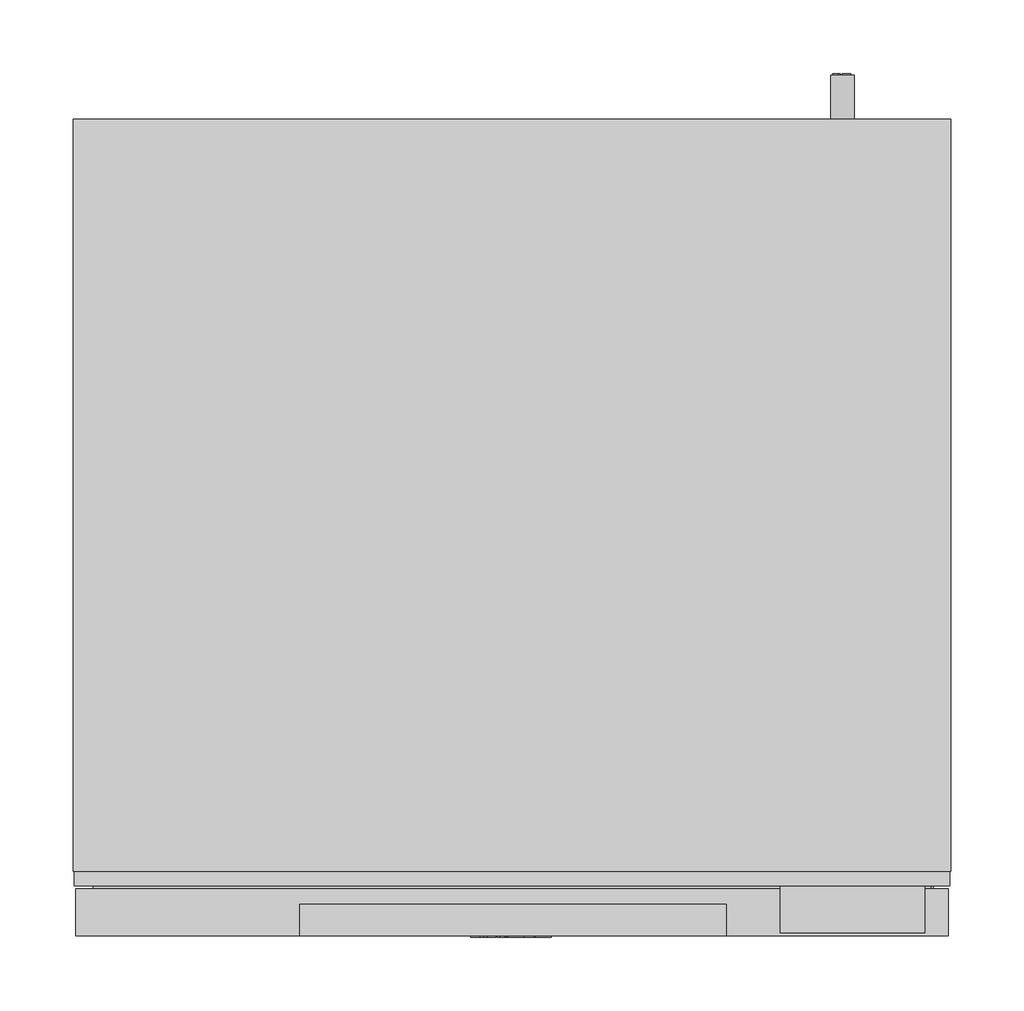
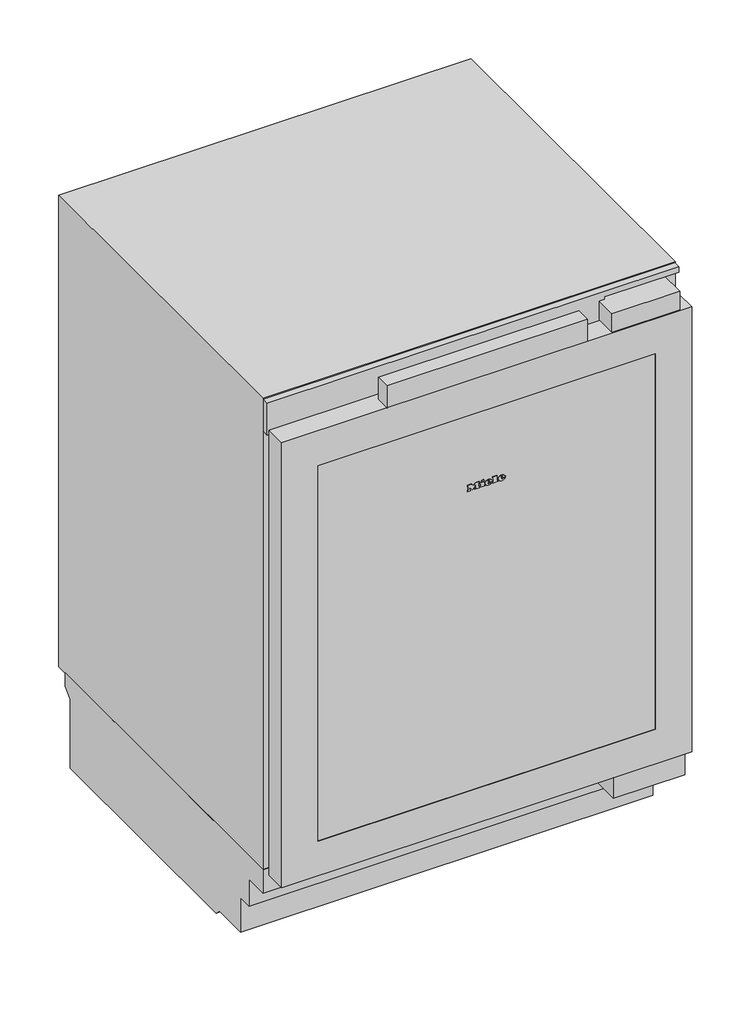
# Not in any storey: 1 proxy.
"""IFC4 building model written with IfcOpenShell, lengths in millimetres."""

from ifc_helpers import new_model, si_unit, origin, place, context, project, spatial, transform, mapped, element, save
from components import specialty_equipment_1e41febc

model = new_model("IFC4")

# Units and contexts
model_context = context("Model", 3, world=origin())
ifc_project = project(units=[si_unit("LENGTHUNIT", "METRE", prefix="MILLI")], contexts=[model_context])

# Site, building
site = spatial("IfcSite", under=ifc_project)
building = spatial("IfcBuilding", under=site)

# Proxy
placement = place(None, origin())
specialty_equipment_shape = specialty_equipment_1e41febc(model_context)
element("IfcBuildingElementProxy", 1, Name="12519520_USA_KWTUS7172F : 39717210_USA_12519520_KWTUS7172F", ObjectType="12519520_USA_KWTUS7172F : 39717210_USA_12519520_KWTUS7172F", at=placement, inside=building, context=model_context, shape_type="MappedRepresentation", body=[
    mapped(specialty_equipment_shape, transform((0.0, 0.0, 0.0), x_axis=(1.0, 0.0, 0.0), y_axis=(0.0, 1.0, 0.0), z_axis=(0.0, 0.0, 1.0))),
])

save(model, "model.ifc")
